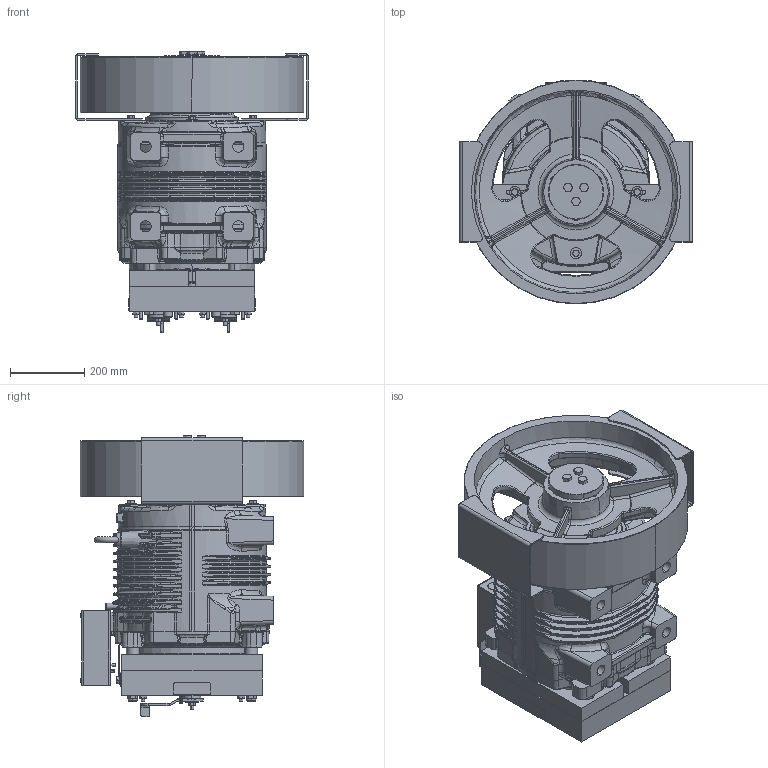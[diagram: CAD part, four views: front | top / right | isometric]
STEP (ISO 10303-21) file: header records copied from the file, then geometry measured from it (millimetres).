
FILE_DESCRIPTION((''),'2;1');
FILE_NAME('00363634_ASM','2020-06-16T',('furlanis'),('Sicor spa'),'CREO PARAMETRIC BY PTC INC, 2017170','CREO PARAMETRIC BY PTC INC, 2017170','');
FILE_SCHEMA(('CONFIG_CONTROL_DESIGN'));
Products named in the file (4): SG62_; _600_150; _600; 00363634_ASM
Assembly tree (4 placements, depth 2):
  00363634_ASM
    SG62_
    _600_150
    _600  x2
Bounding box: 628 x 604 x 759.04 mm (x, y, z)
Volume: 14638993.2 mm3; surface area: 5203841.7 mm2
Topology: 3 solids, 181 shells, 4112 faces, 11560 edges, 7353 vertices
Faces by surface type: bspline 1189, plane 947, cylinder 908, torus 556, cone 450, sphere 62
Entity records: 229889 total; most frequent: CARTESIAN_POINT 140395, ORIENTED_EDGE 19944, DIRECTION 14988, EDGE_CURVE 11404, VERTEX_POINT 7293, AXIS2_PLACEMENT_3D 5986, B_SPLINE_CURVE_WITH_KNOTS 5295, EDGE_LOOP 4087
